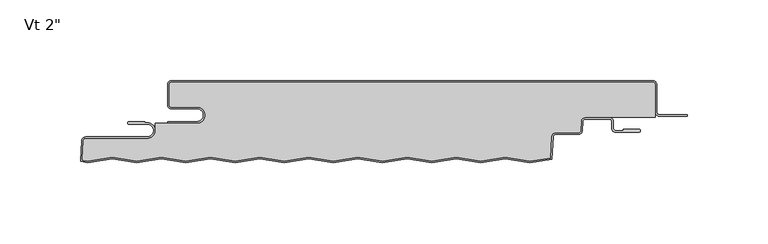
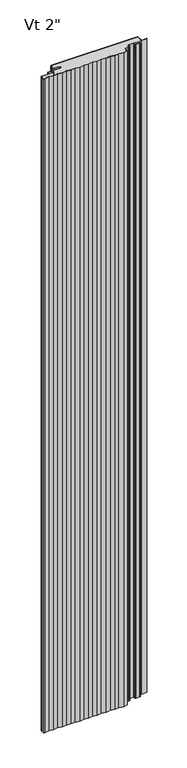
"""IFC4 building model written with IfcOpenShell, lengths in millimetres: plate geometry."""

from ifc_helpers import new_model, si_unit, point, frame, frame_2d, origin, origin_with_axes, place, context, project, spatial, polyline, circle_curve, ellipse_curve, trimmed, segment, composite_curve, outline, extrude, source, transform, mapped, element, save
from ifc_brep_helpers import plane_surface, cylinder_surface, revolved_surface, extruded_surface, advanced_brep


def plate_705a8be8(model_context):
    return source(origin(), model_context, "Body", "SolidModel", [
        extrude(outline(composite_curve([segment(trimmed(circle_curve(frame_2d((107.3558457, -25.4)), 2.5875), [point((107.3558457, -22.8125))], [point((104.7718918, -25.2645807))], True, "CARTESIAN"), True, "CONTINUOUS"), segment(polyline([(104.7718918, -25.2645807), (104.4698155, -31.028539)]), True, "CONTINUOUS"), segment(trimmed(circle_curve(frame_2d((103.0904585, -30.95625)), 1.38125), [point((104.4698155, -31.028539))], [point((103.0904585, -32.3375))], False, "CARTESIAN"), True, "CONTINUOUS"), segment(polyline([(103.0904585, -32.3375), (88.9198847, -32.3375)]), True, "CONTINUOUS"), segment(trimmed(circle_curve(frame_2d((88.9198847, -34.925)), 2.5875), [point((88.9198847, -32.3375))], [point((86.3359307, -34.7895807))], True, "CARTESIAN"), True, "CONTINUOUS"), segment(polyline([(86.3359307, -34.7895807), (85.6427661, -48.01595), (72.86, -50.0611926), (57.8225675, -47.6552034), (42.5825675, -50.0936034), (27.3425675, -47.6552034), (12.1025675, -50.0936034), (-3.1374325, -47.6552034), (-18.3774325, -50.0936034), (-33.6174325, -47.6552034), (-48.8574325, -50.0936034), (-64.0974325, -47.6552034), (-79.3374325, -50.0936034), (-94.5774325, -47.6552034), (-109.8174325, -50.0936034), (-125.0574325, -47.6552034), (-140.2974325, -50.0936034), (-155.5374325, -47.6552034), (-170.7774325, -50.0936034), (-186.0174325, -47.6552034), (-201.2573975, -50.0933847), (-203.5099448, -49.7322508)]), True, "CONTINUOUS"), segment(trimmed(circle_curve(frame_2d((-203.0779254, -48.4195367)), 1.3819766), [point((-203.5099448, -49.7322508))], [point((-204.4579878, -48.346824))], False, "CARTESIAN"), True, "CONTINUOUS"), segment(polyline([(-204.4579878, -48.346824), (-203.8751617, -37.233961)]), True, "CONTINUOUS"), segment(trimmed(circle_curve(frame_2d((-202.4958046, -37.30625)), 1.38125), [point((-203.8751617, -37.233961))], [point((-202.4958046, -35.925))], False, "CARTESIAN"), True, "CONTINUOUS"), segment(polyline([(-202.4958046, -35.925), (-164.3125, -35.925)]), True, "CONTINUOUS"), segment(trimmed(circle_curve(frame_2d((-164.3125, -30.95625)), 4.96875), [point((-164.3125, -35.925))], [point((-159.34375, -30.95625))], True, "CARTESIAN"), True, "CONTINUOUS"), segment(polyline([(-159.34375, -30.95625), (-159.34375, -26.4), (-133.35625, -26.4)]), True, "CONTINUOUS"), segment(trimmed(circle_curve(frame_2d((-133.35625, -21.43125)), 4.96875), [point((-133.35625, -26.4))], [point((-133.35625, -16.4625))], True, "CARTESIAN"), True, "CONTINUOUS"), segment(polyline([(-133.35625, -16.4625), (-149.23125, -16.4625)]), True, "CONTINUOUS"), segment(trimmed(circle_curve(frame_2d((-149.23125, -15.08125)), 1.38125), [point((-149.23125, -16.4625))], [point((-150.6125, -15.08125))], False, "CARTESIAN"), True, "CONTINUOUS"), segment(polyline([(-150.6125, -15.08125), (-150.6125, -2.38125)]), True, "CONTINUOUS"), segment(trimmed(circle_curve(frame_2d((-149.23125, -2.38125)), 1.38125), [point((-150.6125, -2.38125))], [point((-149.23125, -1.0))], False, "CARTESIAN"), True, "CONTINUOUS"), segment(polyline([(-149.23125, -1.0), (149.21875, -1.0)]), True, "CONTINUOUS"), segment(trimmed(circle_curve(frame_2d((149.21875, -2.38125)), 1.38125), [point((149.21875, -1.0))], [point((150.6, -2.38125))], False, "CARTESIAN"), True, "CONTINUOUS"), segment(polyline([(150.6, -2.38125), (150.6, -22.8125), (107.3558457, -22.8125)]), True, "CONTINUOUS")], self_intersect=False)), origin_with_axes(), (0.0, 0.0, 1.0), 2400.0),
        extrude(outline(composite_curve([segment(polyline([(-151.6125, -25.4), (-133.35625, -25.4)]), True, "CONTINUOUS"), segment(trimmed(circle_curve(frame_2d((-133.35625, -21.43125)), 3.96875), [point((-133.35625, -25.4))], [point((-133.35625, -17.4625))], True, "CARTESIAN"), True, "CONTINUOUS"), segment(polyline([(-133.35625, -17.4625), (-149.23125, -17.4625)]), True, "CONTINUOUS"), segment(trimmed(circle_curve(frame_2d((-149.23125, -15.08125)), 2.38125), [point((-149.23125, -17.4625))], [point((-151.6125, -15.08125))], False, "CARTESIAN"), True, "CONTINUOUS"), segment(polyline([(-151.6125, -15.08125), (-151.6125, -2.38125)]), True, "CONTINUOUS"), segment(trimmed(circle_curve(frame_2d((-149.23125, -2.38125)), 2.38125), [point((-151.6125, -2.38125))], [point((-149.23125, 0.0))], False, "CARTESIAN"), True, "CONTINUOUS"), segment(polyline([(-149.23125, 0.0), (149.21875, 0.0)]), True, "CONTINUOUS"), segment(trimmed(circle_curve(frame_2d((149.21875, -2.38125)), 2.38125), [point((149.21875, 0.0))], [point((151.6, -2.38125))], False, "CARTESIAN"), True, "CONTINUOUS"), segment(polyline([(151.6, -2.38125), (151.6, -19.446875)]), True, "CONTINUOUS"), segment(trimmed(circle_curve(frame_2d((153.1875, -19.446875)), 1.5875), [point((151.6, -19.446875))], [point((153.1875, -21.034375))], True, "CARTESIAN"), True, "CONTINUOUS"), segment(polyline([(153.1875, -21.034375), (170.65, -21.034375), (170.65, -22.034375), (153.1875, -22.034375)]), True, "CONTINUOUS"), segment(trimmed(circle_curve(frame_2d((153.1875, -19.446875)), 2.5875), [point((153.1875, -22.034375))], [point((150.6, -19.446875))], False, "CARTESIAN"), True, "CONTINUOUS"), segment(polyline([(150.6, -19.446875), (150.6, -2.38125)]), True, "CONTINUOUS"), segment(trimmed(circle_curve(frame_2d((149.21875, -2.38125)), 1.38125), [point((150.6, -2.38125))], [point((149.21875, -1.0))], True, "CARTESIAN"), True, "CONTINUOUS"), segment(polyline([(149.21875, -1.0), (-149.23125, -1.0)]), True, "CONTINUOUS"), segment(trimmed(circle_curve(frame_2d((-149.23125, -2.38125)), 1.38125), [point((-149.23125, -1.0))], [point((-150.6125, -2.38125))], True, "CARTESIAN"), True, "CONTINUOUS"), segment(polyline([(-150.6125, -2.38125), (-150.6125, -15.08125)]), True, "CONTINUOUS"), segment(trimmed(circle_curve(frame_2d((-149.23125, -15.08125)), 1.38125), [point((-150.6125, -15.08125))], [point((-149.23125, -16.4625))], True, "CARTESIAN"), True, "CONTINUOUS"), segment(polyline([(-149.23125, -16.4625), (-133.35625, -16.4625)]), True, "CONTINUOUS"), segment(trimmed(circle_curve(frame_2d((-133.35625, -21.43125)), 4.96875), [point((-133.35625, -16.4625))], [point((-133.35625, -26.4))], False, "CARTESIAN"), True, "CONTINUOUS"), segment(polyline([(-133.35625, -26.4), (-151.6125, -26.4), (-151.6125, -25.4)]), True, "CONTINUOUS")], self_intersect=False)), origin_with_axes(), (0.0, 0.0, 1.0), 2400.0),
        advanced_brep(
        [(-175.6377049, -25.4, 2400.0), (-175.6377049, -26.9875, 2400.0), (-164.3267674, -26.9875, 2400.0), (-164.3267674, -34.925, 2400.0), (-202.5100721, -34.925, 2400.0), (-204.8880586, -37.181625, 2400.0), (-205.5658062, -50.113818, 2400.0), (-201.2771686, -50.8, 2400.0), (-186.0371686, -48.3616, 2400.0), (-170.7971686, -50.8, 2400.0), (-155.5571686, -48.3616, 2400.0), (-140.3171686, -50.8, 2400.0), (-125.0771686, -48.3616, 2400.0), (-109.8371686, -50.8, 2400.0), (-94.5971686, -48.3616, 2400.0), (-79.3571686, -50.8, 2400.0), (-64.1171686, -48.3616, 2400.0), (-48.8771686, -50.8, 2400.0), (-33.6371686, -48.3616, 2400.0), (-18.3971686, -50.8, 2400.0), (-3.1571686, -48.3616, 2400.0), (12.0828314, -50.8, 2400.0), (27.3228314, -48.3616, 2400.0), (42.5628314, -50.8, 2400.0), (57.8028314, -48.3616, 2400.0), (72.9415476, -50.7837946, 2400.0), (86.6120135, -48.6289309, 2400.0), (87.3345603, -34.8419167, 2400.0), (88.9198847, -33.3375, 2400.0), (103.0761911, -33.3375, 2400.0), (105.4541776, -31.080875, 2400.0), (105.7562539, -25.3169167, 2400.0), (107.3415783, -23.8125, 2400.0), (122.2169826, -23.8125, 2400.0), (123.8044826, -25.4, 2400.0), (123.8044826, -29.5671875, 2400.0), (126.1857326, -31.9484375, 2400.0), (140.6773532, -31.9484375, 2400.0), (140.6773532, -30.1546875, 2400.0), (130.9482326, -30.1546875, 2400.0), (130.9482326, -30.9484375, 2400.0), (126.1857326, -30.9484375, 2400.0), (124.8044826, -29.5671875, 2400.0), (124.8044826, -25.4, 2400.0), (122.2169826, -22.8125, 2400.0), (107.3415783, -22.8125, 2400.0), (104.7576244, -25.2645807, 2400.0), (104.4555481, -31.028539, 2400.0), (103.0761911, -32.3375, 2400.0), (88.9198847, -32.3375, 2400.0), (86.3359307, -34.7895807, 2400.0), (85.6556965, -47.7692225, 2400.0), (73.0428314, -49.7872809, 2400.0), (57.8028314, -47.3488809, 2400.0), (42.5628314, -49.7872809, 2400.0), (27.3228314, -47.3488809, 2400.0), (12.0828314, -49.7872809, 2400.0), (-3.1571686, -47.3488809, 2400.0), (-18.3971686, -49.7872809, 2400.0), (-33.6371686, -47.3488809, 2400.0), (-48.8771686, -49.7872809, 2400.0), (-64.1171686, -47.3488809, 2400.0), (-79.3571686, -49.7872809, 2400.0), (-94.5971686, -47.3488809, 2400.0), (-109.8371686, -49.7872809, 2400.0), (-125.0771686, -47.3488809, 2400.0), (-140.3171686, -49.7872809, 2400.0), (-155.5571686, -47.3488809, 2400.0), (-170.7971686, -49.7872809, 2400.0), (-186.0371686, -47.3488809, 2400.0), (-201.2771686, -49.7872809, 2400.0), (-204.5201277, -49.2684074, 2400.0), (-203.8894291, -37.233961, 2400.0), (-202.5100721, -35.925, 2400.0), (-164.3267674, -35.925, 2400.0), (-164.3267674, -25.9875, 2400.0), (-165.9142674, -26.19375, 2400.0), (-165.9142674, -25.4, 2400.0), (-175.6377049, -25.4, 0.0), (-165.9142674, -25.4, 0.0), (-165.9142674, -26.19375, 0.0), (-164.3267674, -25.9875, 0.0), (-164.3267674, -35.925, 0.0), (-202.5100721, -35.925, 0.0), (-203.8894291, -37.233961, 0.0), (-204.5201277, -49.2684074, 0.0), (-201.2771686, -49.7872809, 0.0), (-186.0371686, -47.3488809, 0.0), (-170.7971686, -49.7872809, 0.0), (-155.5571686, -47.3488809, 0.0), (-140.3171686, -49.7872809, 0.0), (-125.0771686, -47.3488809, 0.0), (-109.8371686, -49.7872809, 0.0), (-94.5971686, -47.3488809, 0.0), (-79.3571686, -49.7872809, 0.0), (-64.1171686, -47.3488809, 0.0), (-48.8771686, -49.7872809, 0.0), (-33.6371686, -47.3488809, 0.0), (-18.3971686, -49.7872809, 0.0), (-3.1571686, -47.3488809, 0.0), (12.0828314, -49.7872809, 0.0), (27.3228314, -47.3488809, 0.0), (42.5628314, -49.7872809, 0.0), (57.8028314, -47.3488809, 0.0), (72.9415476, -49.7710755, 0.0), (85.6556965, -47.7692225, 0.0), (86.3359307, -34.7895807, 0.0), (88.9198847, -32.3375, 0.0), (103.0761911, -32.3375, 0.0), (104.4555481, -31.028539, 0.0), (104.7576244, -25.2645807, 0.0), (107.3415783, -22.8125, 0.0), (122.2169826, -22.8125, 0.0), (124.8044826, -25.4, 0.0), (124.8044826, -29.5671875, 0.0), (126.1857326, -30.9484375, 0.0), (130.9482326, -30.9484375, 0.0), (130.9482326, -30.1546875, 0.0), (140.6773532, -30.1546875, 0.0), (140.6773532, -31.9484375, 0.0), (126.1857326, -31.9484375, 0.0), (123.8044826, -29.5671875, 0.0), (123.8044826, -25.4, 0.0), (122.2169826, -23.8125, 0.0), (107.3415783, -23.8125, 0.0), (105.7562539, -25.3169167, 0.0), (105.4541776, -31.080875, 0.0), (103.0761911, -33.3375, 0.0), (88.9198847, -33.3375, 0.0), (87.3345603, -34.8419167, 0.0), (86.6120135, -48.6289309, 0.0), (73.0428314, -50.8, 0.0), (57.8028314, -48.3616, 0.0), (42.5628314, -50.8, 0.0), (27.3228314, -48.3616, 0.0), (12.0828314, -50.8, 0.0), (-3.1571686, -48.3616, 0.0), (-18.3971686, -50.8, 0.0), (-33.6371686, -48.3616, 0.0), (-48.8771686, -50.8, 0.0), (-64.1171686, -48.3616, 0.0), (-79.3571686, -50.8, 0.0), (-94.5971686, -48.3616, 0.0), (-109.8371686, -50.8, 0.0), (-125.0771686, -48.3616, 0.0), (-140.3171686, -50.8, 0.0), (-155.5571686, -48.3616, 0.0), (-170.7971686, -50.8, 0.0), (-186.0371686, -48.3616, 0.0), (-201.2771686, -50.8, 0.0), (-205.5658062, -50.113818, 0.0), (-204.8880586, -37.181625, 0.0), (-202.5100721, -34.925, 0.0), (-164.3267674, -34.925, 0.0), (-164.3267674, -26.9875, 0.0), (-175.6377049, -26.9875, 0.0)],
        [
            (0, 1, circle_curve(frame((-175.6377049, -26.19375, 2400.0), z_axis=(0.0, 0.0, 1.0), x_axis=(1.0, 0.0, 0.0)), 0.79375)),
            (1, 2),
            (2, 3, circle_curve(frame((-164.3267674, -30.95625, 2400.0), z_axis=(0.0, 0.0, -1.0), x_axis=(1.0, 0.0, 0.0)), 3.96875)),
            (3, 4),
            (4, 5, circle_curve(frame((-202.5100721, -37.30625, 2400.0), z_axis=(0.0, 0.0, 1.0), x_axis=(1.0, 0.0, 0.0)), 2.38125)),
            (5, 6),
            (6, 7),
            (7, 8),
            (8, 9),
            (9, 10),
            (10, 11),
            (11, 12),
            (12, 13),
            (13, 14),
            (14, 15),
            (15, 16),
            (16, 17),
            (17, 18),
            (18, 19),
            (19, 20),
            (20, 21),
            (21, 22),
            (22, 23),
            (23, 24),
            (24, 25),
            (25, 26),
            (26, 27),
            (27, 28, circle_curve(frame((88.9198847, -34.925, 2400.0), z_axis=(0.0, 0.0, -1.0), x_axis=(1.0, 0.0, 0.0)), 1.5875)),
            (28, 29),
            (29, 30, circle_curve(frame((103.0761911, -30.95625, 2400.0), z_axis=(0.0, 0.0, 1.0), x_axis=(1.0, 0.0, 0.0)), 2.38125)),
            (30, 31),
            (31, 32, circle_curve(frame((107.3415783, -25.4, 2400.0), z_axis=(0.0, 0.0, -1.0), x_axis=(1.0, 0.0, 0.0)), 1.5875)),
            (32, 33),
            (33, 34, circle_curve(frame((122.2169826, -25.4, 2400.0), z_axis=(0.0, 0.0, -1.0), x_axis=(1.0, 0.0, 0.0)), 1.5875)),
            (34, 35),
            (35, 36, circle_curve(frame((126.1857326, -29.5671875, 2400.0), z_axis=(0.0, 0.0, 1.0), x_axis=(1.0, 0.0, 0.0)), 2.38125)),
            (36, 37),
            (37, 38, ellipse_curve(frame((140.6773532, -31.0515625, 2400.0), z_axis=(0.0, 0.0, 1.0), x_axis=(0.0, 1.0, 0.0)), 0.896875, 0.7852275)),
            (38, 39),
            (39, 40),
            (40, 41),
            (41, 42, circle_curve(frame((126.1857326, -29.5671875, 2400.0), z_axis=(0.0, 0.0, -1.0), x_axis=(1.0, 0.0, 0.0)), 1.38125)),
            (42, 43),
            (43, 44, circle_curve(frame((122.2169826, -25.4, 2400.0), z_axis=(0.0, 0.0, 1.0), x_axis=(1.0, 0.0, 0.0)), 2.5875)),
            (44, 45),
            (45, 46, circle_curve(frame((107.3415783, -25.4, 2400.0), z_axis=(0.0, 0.0, 1.0), x_axis=(1.0, 0.0, 0.0)), 2.5875)),
            (46, 47),
            (47, 48, circle_curve(frame((103.0761911, -30.95625, 2400.0), z_axis=(0.0, 0.0, -1.0), x_axis=(1.0, 0.0, 0.0)), 1.38125)),
            (48, 49),
            (49, 50, circle_curve(frame((88.9198847, -34.925, 2400.0), z_axis=(0.0, 0.0, 1.0), x_axis=(1.0, 0.0, 0.0)), 2.5875)),
            (50, 51),
            (51, 52),
            (52, 53),
            (53, 54),
            (54, 55),
            (55, 56),
            (56, 57),
            (57, 58),
            (58, 59),
            (59, 60),
            (60, 61),
            (61, 62),
            (62, 63),
            (63, 64),
            (64, 65),
            (65, 66),
            (66, 67),
            (67, 68),
            (68, 69),
            (69, 70),
            (70, 71),
            (71, 72),
            (72, 73, circle_curve(frame((-202.5100721, -37.30625, 2400.0), z_axis=(0.0, 0.0, -1.0), x_axis=(1.0, 0.0, 0.0)), 1.38125)),
            (73, 74),
            (74, 75, circle_curve(frame((-164.3267674, -30.95625, 2400.0), z_axis=(0.0, 0.0, 1.0), x_axis=(1.0, 0.0, 0.0)), 4.96875)),
            (75, 76),
            (76, 77),
            (77, 0),
            (78, 79),
            (79, 80),
            (80, 81),
            (81, 82, circle_curve(frame((-164.3267674, -30.95625, 0.0), z_axis=(0.0, 0.0, -1.0), x_axis=(1.0, 0.0, 0.0)), 4.96875)),
            (82, 83),
            (83, 84, circle_curve(frame((-202.5100721, -37.30625, 0.0), z_axis=(0.0, 0.0, 1.0), x_axis=(1.0, 0.0, 0.0)), 1.38125)),
            (84, 85),
            (85, 86),
            (86, 87),
            (87, 88),
            (88, 89),
            (89, 90),
            (90, 91),
            (91, 92),
            (92, 93),
            (93, 94),
            (94, 95),
            (95, 96),
            (96, 97),
            (97, 98),
            (98, 99),
            (99, 100),
            (100, 101),
            (101, 102),
            (102, 103),
            (103, 104),
            (104, 105),
            (105, 106),
            (106, 107, circle_curve(frame((88.9198847, -34.925, 0.0), z_axis=(0.0, 0.0, -1.0), x_axis=(1.0, 0.0, 0.0)), 2.5875)),
            (107, 108),
            (108, 109, circle_curve(frame((103.0761911, -30.95625, 0.0), z_axis=(0.0, 0.0, 1.0), x_axis=(1.0, 0.0, 0.0)), 1.38125)),
            (109, 110),
            (110, 111, circle_curve(frame((107.3415783, -25.4, 0.0), z_axis=(0.0, 0.0, -1.0), x_axis=(1.0, 0.0, 0.0)), 2.5875)),
            (111, 112),
            (112, 113, circle_curve(frame((122.2169826, -25.4, 0.0), z_axis=(0.0, 0.0, -1.0), x_axis=(1.0, 0.0, 0.0)), 2.5875)),
            (113, 114),
            (114, 115, circle_curve(frame((126.1857326, -29.5671875, 0.0), z_axis=(0.0, 0.0, 1.0), x_axis=(1.0, 0.0, 0.0)), 1.38125)),
            (115, 116),
            (116, 117),
            (117, 118),
            (118, 119, ellipse_curve(frame((140.6773532, -31.0515625, 0.0), z_axis=(0.0, 0.0, -1.0), x_axis=(0.0, 1.0, 0.0)), 0.896875, 0.7852275)),
            (119, 120),
            (120, 121, circle_curve(frame((126.1857326, -29.5671875, 0.0), z_axis=(0.0, 0.0, -1.0), x_axis=(1.0, 0.0, 0.0)), 2.38125)),
            (121, 122),
            (122, 123, circle_curve(frame((122.2169826, -25.4, 0.0), z_axis=(0.0, 0.0, 1.0), x_axis=(1.0, 0.0, 0.0)), 1.5875)),
            (123, 124),
            (124, 125, circle_curve(frame((107.3415783, -25.4, 0.0), z_axis=(0.0, 0.0, 1.0), x_axis=(1.0, 0.0, 0.0)), 1.5875)),
            (125, 126),
            (126, 127, circle_curve(frame((103.0761911, -30.95625, 0.0), z_axis=(0.0, 0.0, -1.0), x_axis=(1.0, 0.0, 0.0)), 2.38125)),
            (127, 128),
            (128, 129, circle_curve(frame((88.9198847, -34.925, 0.0), z_axis=(0.0, 0.0, 1.0), x_axis=(1.0, 0.0, 0.0)), 1.5875)),
            (129, 130),
            (130, 131),
            (131, 132),
            (132, 133),
            (133, 134),
            (134, 135),
            (135, 136),
            (136, 137),
            (137, 138),
            (138, 139),
            (139, 140),
            (140, 141),
            (141, 142),
            (142, 143),
            (143, 144),
            (144, 145),
            (145, 146),
            (146, 147),
            (147, 148),
            (148, 149),
            (149, 150),
            (150, 151),
            (151, 152, circle_curve(frame((-202.5100721, -37.30625, 0.0), z_axis=(0.0, 0.0, -1.0), x_axis=(1.0, 0.0, 0.0)), 2.38125)),
            (152, 153),
            (153, 154, circle_curve(frame((-164.3267674, -30.95625, 0.0), z_axis=(0.0, 0.0, 1.0), x_axis=(1.0, 0.0, 0.0)), 3.96875)),
            (154, 155),
            (155, 78, circle_curve(frame((-175.6377049, -26.19375, 0.0), z_axis=(0.0, 0.0, -1.0), x_axis=(1.0, 0.0, 0.0)), 0.79375)),
            (77, 79),
            (78, 0),
            (155, 1),
            (154, 2),
            (153, 3),
            (152, 4),
            (151, 5),
            (150, 6),
            (27, 129),
            (128, 28),
            (127, 29),
            (126, 30),
            (125, 31),
            (124, 32),
            (72, 84),
            (83, 73),
            (71, 85),
            (49, 107),
            (106, 50),
            (48, 108),
            (47, 109),
            (46, 110),
            (45, 111),
            (40, 116),
            (115, 41),
            (114, 42),
            (113, 43),
            (123, 33),
            (122, 34),
            (121, 35),
            (120, 36),
            (119, 37),
            (44, 112),
            (82, 74),
            (81, 75),
            (76, 80),
            (39, 117),
            (38, 118),
            (26, 130),
            (105, 51),
            (24, 132),
            (131, 25),
            (52, 104),
            (103, 53),
            (102, 54),
            (101, 55),
            (100, 56),
            (65, 91),
            (90, 66),
            (89, 67),
            (88, 68),
            (87, 69),
            (86, 70),
            (149, 7),
            (148, 8),
            (147, 9),
            (146, 10),
            (145, 11),
            (144, 12),
            (143, 13),
            (142, 14),
            (141, 15),
            (140, 16),
            (139, 17),
            (138, 18),
            (21, 135),
            (134, 22),
            (133, 23),
            (20, 136),
            (19, 137),
            (64, 92),
            (63, 93),
            (62, 94),
            (61, 95),
            (60, 96),
            (59, 97),
            (58, 98),
            (57, 99),
        ],
        [
            plane_surface(frame((-0.00625, -50.8, 2400.0), z_axis=(0.0, 0.0, 1.0), x_axis=(0.0, -1.0, 0.0))),
            plane_surface(frame((-0.00625, -50.8, 0.0), z_axis=(0.0, 0.0, -1.0), x_axis=(0.0, -1.0, 0.0))),
            plane_surface(frame((-175.6377049, -25.4, 2400.0), z_axis=(0.0, 1.0, 0.0), x_axis=(0.0, 0.0, -1.0))),
            cylinder_surface(frame((-175.6377049, -26.19375, 2400.0), z_axis=(0.0, 0.0, 1.0), x_axis=(1.0, 0.0, 0.0)), 0.79375),
            plane_surface(frame((-164.3267674, -26.9875, 2400.0), z_axis=(0.0, -1.0, 0.0), x_axis=(0.0, 0.0, -1.0))),
            revolved_surface(polyline([(-160.3580174, -30.95625, 0.0), (-160.3580174, -30.95625, 2400.0)]), (-164.3267674, -30.95625, 2400.0), (0.0, 0.0, -1.0)),
            plane_surface(frame((-202.5100721, -34.925, 2400.0), z_axis=(0.0, 1.0, 0.0), x_axis=(0.0, 0.0, -1.0))),
            cylinder_surface(frame((-202.5100721, -37.30625, 2400.0), z_axis=(0.0, 0.0, 1.0), x_axis=(1.0, 0.0, 0.0)), 2.38125),
            plane_surface(frame((-205.5658062, -50.113818, 2400.0), z_axis=(-0.9986295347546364, 0.05233595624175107, 0.0), x_axis=(0.0, 0.0, -1.0))),
            revolved_surface(polyline([(90.5073847, -34.925, 0.0), (90.5073847, -34.925, 2400.0)]), (88.9198847, -34.925, 2400.0), (0.0, 0.0, -1.0)),
            plane_surface(frame((103.0761911, -33.3375, 2400.0), z_axis=(0.0, -1.0, 0.0), x_axis=(0.0, 0.0, -1.0))),
            cylinder_surface(frame((103.0761911, -30.95625, 2400.0), z_axis=(0.0, 0.0, 1.0), x_axis=(1.0, 0.0, 0.0)), 2.38125),
            plane_surface(frame((105.7562539, -25.3169167, 2400.0), z_axis=(0.9986295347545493, -0.052335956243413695, 0.0), x_axis=(0.0, 0.0, -1.0))),
            revolved_surface(polyline([(108.9290783, -25.4, 0.0), (108.9290783, -25.4, 2400.0)]), (107.3415783, -25.4, 2400.0), (0.0, 0.0, -1.0)),
            revolved_surface(polyline([(-201.1288221, -37.30625, 0.0), (-201.1288221, -37.30625, 2400.0)]), (-202.5100721, -37.30625, 2400.0), (0.0, 0.0, -1.0)),
            plane_surface(frame((-203.8894291, -37.233961, 2400.0), z_axis=(0.9986295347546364, -0.05233595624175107, 0.0), x_axis=(0.0, 0.0, -1.0))),
            cylinder_surface(frame((88.9198847, -34.925, 2400.0), z_axis=(0.0, 0.0, 1.0), x_axis=(1.0, 0.0, 0.0)), 2.5875),
            plane_surface(frame((88.9198847, -32.3375, 2400.0), z_axis=(0.0, 1.0, 0.0), x_axis=(0.0, 0.0, -1.0))),
            revolved_surface(polyline([(104.4574411, -30.95625, 0.0), (104.4574411, -30.95625, 2400.0)]), (103.0761911, -30.95625, 2400.0), (0.0, 0.0, -1.0)),
            plane_surface(frame((104.4555481, -31.028539, 2400.0), z_axis=(-0.998629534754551, 0.05233595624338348, 0.0), x_axis=(0.0, 0.0, -1.0))),
            cylinder_surface(frame((107.3415783, -25.4, 2400.0), z_axis=(0.0, 0.0, 1.0), x_axis=(1.0, 0.0, 0.0)), 2.5875),
            plane_surface(frame((126.1857326, -30.9484375, 2400.0), z_axis=(0.0, 1.0, 0.0), x_axis=(0.0, 0.0, -1.0))),
            revolved_surface(polyline([(127.56698259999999, -29.5671875, 0.0), (127.56698259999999, -29.5671875, 2400.0)]), (126.1857326, -29.5671875, 2400.0), (0.0, 0.0, -1.0)),
            plane_surface(frame((124.8044826, -25.4, 2400.0), z_axis=(1.0, 0.0, 0.0), x_axis=(0.0, 0.0, -1.0))),
            plane_surface(frame((122.2169826, -23.8125, 2400.0), z_axis=(0.0, -1.0, 0.0), x_axis=(0.0, 0.0, -1.0))),
            revolved_surface(polyline([(123.8044826, -25.4, 0.0), (123.8044826, -25.4, 2400.0)]), (122.2169826, -25.4, 2400.0), (0.0, 0.0, -1.0)),
            plane_surface(frame((123.8044826, -29.5671875, 2400.0), z_axis=(-1.0, 0.0, 0.0), x_axis=(0.0, 0.0, -1.0))),
            cylinder_surface(frame((126.1857326, -29.5671875, 2400.0), z_axis=(0.0, 0.0, 1.0), x_axis=(1.0, 0.0, 0.0)), 2.38125),
            plane_surface(frame((140.6773532, -31.9484375, 2400.0), z_axis=(0.0, -1.0, 0.0), x_axis=(0.0, 0.0, -1.0))),
            plane_surface(frame((107.3415783, -22.8125, 2400.0), z_axis=(0.0, 1.0, 0.0), x_axis=(0.0, 0.0, -1.0))),
            cylinder_surface(frame((122.2169826, -25.4, 2400.0), z_axis=(0.0, 0.0, 1.0), x_axis=(1.0, 0.0, 0.0)), 2.5875),
            plane_surface(frame((-164.3267674, -35.925, 2400.0), z_axis=(0.0, -1.0, 0.0), x_axis=(0.0, 0.0, -1.0))),
            cylinder_surface(frame((-164.3267674, -30.95625, 2400.0), z_axis=(0.0, 0.0, 1.0), x_axis=(1.0, 0.0, 0.0)), 4.96875),
            plane_surface(frame((-165.9142674, -25.4, 2400.0), z_axis=(1.0, 0.0, 0.0), x_axis=(0.0, 0.0, -1.0))),
            plane_surface(frame((-165.9142674, -26.19375, 2400.0), z_axis=(-0.12883844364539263, 0.9916655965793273, 0.0), x_axis=(0.0, 0.0, -1.0))),
            plane_surface(frame((130.9482326, -30.9484375, 2400.0), z_axis=(-1.0, 0.0, 0.0), x_axis=(0.0, 0.0, -1.0))),
            plane_surface(frame((130.9482326, -30.1546875, 2400.0), z_axis=(0.0, 1.0, 0.0), x_axis=(0.0, 0.0, -1.0))),
            extruded_surface(trimmed(ellipse_curve(frame((140.6773532, -31.0515625, 2400.0), z_axis=(0.0, 0.0, -1.0), x_axis=(0.0, 1.0, 0.0)), 0.896875, 0.7852275), [point((140.6773532, -30.1546875, 2400.0))], [point((140.6773532, -31.9484375, 2400.0))], True, "CARTESIAN"), (0.0, 0.0, -2400.0), 2400.0),
            plane_surface(frame((87.3345603, -34.8419167, 2400.0), z_axis=(0.9986295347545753, -0.052335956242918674, 0.0), x_axis=(0.0, 0.0, -1.0))),
            plane_surface(frame((85.6556965, -47.7692225, 2400.0), z_axis=(-0.9986295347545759, 0.05233595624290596, 0.0), x_axis=(0.0, 0.0, -1.0))),
            plane_surface(frame((72.9415476, -50.7837946, 2400.0), z_axis=(-0.15799050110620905, -0.9874406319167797, 0.0), x_axis=(0.0, 0.0, -1.0))),
            plane_surface(frame((57.8028314, -47.3488809, 2400.0), z_axis=(0.15799050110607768, 0.9874406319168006, 0.0), x_axis=(0.0, 0.0, -1.0))),
            plane_surface(frame((42.5628314, -49.7872809, 2400.0), z_axis=(-0.15799050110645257, 0.9874406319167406, 0.0), x_axis=(0.0, 0.0, -1.0))),
            plane_surface(frame((27.3228314, -47.3488809, 2400.0), z_axis=(0.157990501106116, 0.9874406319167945, 0.0), x_axis=(0.0, 0.0, -1.0))),
            plane_surface(frame((12.0828314, -49.7872809, 2400.0), z_axis=(-0.15799050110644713, 0.9874406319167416, 0.0), x_axis=(0.0, 0.0, -1.0))),
            plane_surface(frame((-140.3171686, -49.7872809, 2400.0), z_axis=(-0.15799050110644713, 0.9874406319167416, 0.0), x_axis=(0.0, 0.0, -1.0))),
            plane_surface(frame((-155.5571686, -47.3488809, 2400.0), z_axis=(0.15799050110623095, 0.9874406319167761, 0.0), x_axis=(0.0, 0.0, -1.0))),
            plane_surface(frame((-170.7971686, -49.7872809, 2400.0), z_axis=(-0.15799050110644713, 0.9874406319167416, 0.0), x_axis=(0.0, 0.0, -1.0))),
            plane_surface(frame((-186.0371686, -47.3488809, 2400.0), z_axis=(0.157990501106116, 0.9874406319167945, 0.0), x_axis=(0.0, 0.0, -1.0))),
            plane_surface(frame((-201.2771686, -49.7872809, 2400.0), z_axis=(-0.15799050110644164, 0.9874406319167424, 0.0), x_axis=(0.0, 0.0, -1.0))),
            plane_surface(frame((-204.5201277, -49.2684074, 2400.0), z_axis=(0.1579905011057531, 0.9874406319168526, 0.0), x_axis=(0.0, 0.0, -1.0))),
            plane_surface(frame((-201.2771686, -50.8, 2400.0), z_axis=(-0.15799050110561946, -0.9874406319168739, 0.0), x_axis=(0.0, 0.0, -1.0))),
            plane_surface(frame((-186.0371686, -48.3616, 2400.0), z_axis=(0.15799050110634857, -0.9874406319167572, 0.0), x_axis=(0.0, 0.0, -1.0))),
            plane_surface(frame((-170.7971686, -50.8, 2400.0), z_axis=(-0.15799050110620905, -0.9874406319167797, 0.0), x_axis=(0.0, 0.0, -1.0))),
            plane_surface(frame((-155.5571686, -48.3616, 2400.0), z_axis=(0.15799050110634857, -0.9874406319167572, 0.0), x_axis=(0.0, 0.0, -1.0))),
            plane_surface(frame((-140.3171686, -50.8, 2400.0), z_axis=(-0.15799050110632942, -0.9874406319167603, 0.0), x_axis=(0.0, 0.0, -1.0))),
            plane_surface(frame((-125.0771686, -48.3616, 2400.0), z_axis=(0.15799050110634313, -0.9874406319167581, 0.0), x_axis=(0.0, 0.0, -1.0))),
            plane_surface(frame((-109.8371686, -50.8, 2400.0), z_axis=(-0.15799050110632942, -0.9874406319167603, 0.0), x_axis=(0.0, 0.0, -1.0))),
            plane_surface(frame((-94.5971686, -48.3616, 2400.0), z_axis=(0.1579905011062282, -0.9874406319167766, 0.0), x_axis=(0.0, 0.0, -1.0))),
            plane_surface(frame((-79.3571686, -50.8, 2400.0), z_axis=(-0.15799050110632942, -0.9874406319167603, 0.0), x_axis=(0.0, 0.0, -1.0))),
            plane_surface(frame((-64.1171686, -48.3616, 2400.0), z_axis=(0.15799050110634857, -0.9874406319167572, 0.0), x_axis=(0.0, 0.0, -1.0))),
            plane_surface(frame((-48.8771686, -50.8, 2400.0), z_axis=(-0.15799050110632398, -0.9874406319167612, 0.0), x_axis=(0.0, 0.0, -1.0))),
            plane_surface(frame((-33.6371686, -48.3616, 2400.0), z_axis=(0.15799050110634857, -0.9874406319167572, 0.0), x_axis=(0.0, 0.0, -1.0))),
            plane_surface(frame((27.3228314, -48.3616, 2400.0), z_axis=(0.15799050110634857, -0.9874406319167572, 0.0), x_axis=(0.0, 0.0, -1.0))),
            plane_surface(frame((42.5628314, -50.8, 2400.0), z_axis=(-0.15799050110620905, -0.9874406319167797, 0.0), x_axis=(0.0, 0.0, -1.0))),
            plane_surface(frame((57.8028314, -48.3616, 2400.0), z_axis=(0.15799050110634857, -0.9874406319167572, 0.0), x_axis=(0.0, 0.0, -1.0))),
            plane_surface(frame((86.6120135, -48.6289309, 2400.0), z_axis=(0.15799050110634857, -0.9874406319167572, 0.0), x_axis=(0.0, 0.0, -1.0))),
            plane_surface(frame((73.0428314, -49.7872809, 2400.0), z_axis=(-0.15799050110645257, 0.9874406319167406, 0.0), x_axis=(0.0, 0.0, -1.0))),
            plane_surface(frame((12.0828314, -50.8, 2400.0), z_axis=(-0.15799050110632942, -0.9874406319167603, 0.0), x_axis=(0.0, 0.0, -1.0))),
            plane_surface(frame((-3.1571686, -48.3616, 2400.0), z_axis=(0.15799050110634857, -0.9874406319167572, 0.0), x_axis=(0.0, 0.0, -1.0))),
            plane_surface(frame((-18.3971686, -50.8, 2400.0), z_axis=(-0.15799050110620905, -0.9874406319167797, 0.0), x_axis=(0.0, 0.0, -1.0))),
            plane_surface(frame((-125.0771686, -47.3488809, 2400.0), z_axis=(0.15799050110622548, 0.987440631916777, 0.0), x_axis=(0.0, 0.0, -1.0))),
            plane_surface(frame((-109.8371686, -49.7872809, 2400.0), z_axis=(-0.15799050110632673, 0.9874406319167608, 0.0), x_axis=(0.0, 0.0, -1.0))),
            plane_surface(frame((-94.5971686, -47.3488809, 2400.0), z_axis=(0.15799050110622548, 0.987440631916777, 0.0), x_axis=(0.0, 0.0, -1.0))),
            plane_surface(frame((-79.3571686, -49.7872809, 2400.0), z_axis=(-0.15799050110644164, 0.9874406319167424, 0.0), x_axis=(0.0, 0.0, -1.0))),
            plane_surface(frame((-64.1171686, -47.3488809, 2400.0), z_axis=(0.15799050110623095, 0.9874406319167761, 0.0), x_axis=(0.0, 0.0, -1.0))),
            plane_surface(frame((-48.8771686, -49.7872809, 2400.0), z_axis=(-0.15799050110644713, 0.9874406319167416, 0.0), x_axis=(0.0, 0.0, -1.0))),
            plane_surface(frame((-33.6371686, -47.3488809, 2400.0), z_axis=(0.157990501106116, 0.9874406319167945, 0.0), x_axis=(0.0, 0.0, -1.0))),
            plane_surface(frame((-18.3971686, -49.7872809, 2400.0), z_axis=(-0.15799050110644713, 0.9874406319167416, 0.0), x_axis=(0.0, 0.0, -1.0))),
            plane_surface(frame((-3.1571686, -47.3488809, 2400.0), z_axis=(0.15799050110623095, 0.9874406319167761, 0.0), x_axis=(0.0, 0.0, -1.0))),
        ],
        [
            (0, [[1, 2, 3, 4, 5, 6, 7, 8, 9, 10, 11, 12, 13, 14, 15, 16, 17, 18, 19, 20, 21, 22, 23, 24, 25, 26, 27, 28, 29, 30, 31, 32, 33, 34, 35, 36, 37, 38, 39, 40, 41, 42, 43, 44, 45, 46, 47, 48, 49, 50, 51, 52, 53, 54, 55, 56, 57, 58, 59, 60, 61, 62, 63, 64, 65, 66, 67, 68, 69, 70, 71, 72, 73, 74, 75, 76, 77, 78]]),
            (1, [[79, 80, 81, 82, 83, 84, 85, 86, 87, 88, 89, 90, 91, 92, 93, 94, 95, 96, 97, 98, 99, 100, 101, 102, 103, 104, 105, 106, 107, 108, 109, 110, 111, 112, 113, 114, 115, 116, 117, 118, 119, 120, 121, 122, 123, 124, 125, 126, 127, 128, 129, 130, 131, 132, 133, 134, 135, 136, 137, 138, 139, 140, 141, 142, 143, 144, 145, 146, 147, 148, 149, 150, 151, 152, 153, 154, 155, 156]]),
            (2, [[157, -79, 158, -78]]),
            (3, [[-158, -156, 159, -1]]),
            (4, [[-159, -155, 160, -2]]),
            (5, [[-160, -154, 161, -3]]),
            (6, [[-161, -153, 162, -4]]),
            (7, [[-162, -152, 163, -5]]),
            (8, [[-163, -151, 164, -6]]),
            (9, [[165, -129, 166, -28]]),
            (10, [[-166, -128, 167, -29]]),
            (11, [[-167, -127, 168, -30]]),
            (12, [[-168, -126, 169, -31]]),
            (13, [[-169, -125, 170, -32]]),
            (14, [[171, -84, 172, -73]]),
            (15, [[173, -85, -171, -72]]),
            (16, [[174, -107, 175, -50]]),
            (17, [[176, -108, -174, -49]]),
            (18, [[177, -109, -176, -48]]),
            (19, [[178, -110, -177, -47]]),
            (20, [[179, -111, -178, -46]]),
            (21, [[180, -116, 181, -41]]),
            (22, [[-181, -115, 182, -42]]),
            (23, [[-182, -114, 183, -43]]),
            (24, [[-170, -124, 184, -33]]),
            (25, [[-184, -123, 185, -34]]),
            (26, [[-185, -122, 186, -35]]),
            (27, [[-186, -121, 187, -36]]),
            (28, [[-187, -120, 188, -37]]),
            (29, [[189, -112, -179, -45]]),
            (30, [[-183, -113, -189, -44]]),
            (31, [[-172, -83, 190, -74]]),
            (32, [[-190, -82, 191, -75]]),
            (33, [[192, -80, -157, -77]]),
            (34, [[-191, -81, -192, -76]]),
            (35, [[193, -117, -180, -40]]),
            (36, [[194, -118, -193, -39]]),
            (37, [[-188, -119, -194, -38]]),
            (38, [[195, -130, -165, -27]]),
            (39, [[-175, -106, 196, -51]]),
            (40, [[197, -132, 198, -25]]),
            (41, [[199, -104, 200, -53]]),
            (42, [[-200, -103, 201, -54]]),
            (43, [[-201, -102, 202, -55]]),
            (44, [[-202, -101, 203, -56]]),
            (45, [[204, -91, 205, -66]]),
            (46, [[-205, -90, 206, -67]]),
            (47, [[-206, -89, 207, -68]]),
            (48, [[-207, -88, 208, -69]]),
            (49, [[-208, -87, 209, -70]]),
            (50, [[-209, -86, -173, -71]]),
            (51, [[-164, -150, 210, -7]]),
            (52, [[-210, -149, 211, -8]]),
            (53, [[-211, -148, 212, -9]]),
            (54, [[-212, -147, 213, -10]]),
            (55, [[-213, -146, 214, -11]]),
            (56, [[-214, -145, 215, -12]]),
            (57, [[-215, -144, 216, -13]]),
            (58, [[-216, -143, 217, -14]]),
            (59, [[-217, -142, 218, -15]]),
            (60, [[-218, -141, 219, -16]]),
            (61, [[-219, -140, 220, -17]]),
            (62, [[-220, -139, 221, -18]]),
            (63, [[222, -135, 223, -22]]),
            (64, [[-223, -134, 224, -23]]),
            (65, [[-224, -133, -197, -24]]),
            (66, [[-198, -131, -195, -26]]),
            (67, [[-196, -105, -199, -52]]),
            (68, [[225, -136, -222, -21]]),
            (69, [[226, -137, -225, -20]]),
            (70, [[-221, -138, -226, -19]]),
            (71, [[227, -92, -204, -65]]),
            (72, [[228, -93, -227, -64]]),
            (73, [[229, -94, -228, -63]]),
            (74, [[230, -95, -229, -62]]),
            (75, [[231, -96, -230, -61]]),
            (76, [[232, -97, -231, -60]]),
            (77, [[233, -98, -232, -59]]),
            (78, [[234, -99, -233, -58]]),
            (79, [[-203, -100, -234, -57]]),
        ],
    ),
    ])


if __name__ == "__main__":
    model = new_model("IFC4")
    model_context = context("Model", 3, world=origin())
    ifc_project = project(units=[si_unit("LENGTHUNIT", "METRE", prefix="MILLI")], contexts=[model_context])
    site = spatial("IfcSite", under=ifc_project)
    building = spatial("IfcBuilding", under=site)
    placement = place(None, origin())
    plate_shape = plate_705a8be8(model_context)
    element("IfcPlate", 1, ObjectType="KIP-12-DWHR-R19-CP-Vt-S : Vt 2\"", at=placement, inside=building, context=model_context, shape_type="MappedRepresentation", body=[
        mapped(plate_shape, transform((0.0, 0.0, 0.0), x_axis=(1.0, 0.0, 0.0), y_axis=(0.0, 1.0, 0.0), z_axis=(0.0, 0.0, 1.0))),
    ])
    save(model, "model.ifc")
